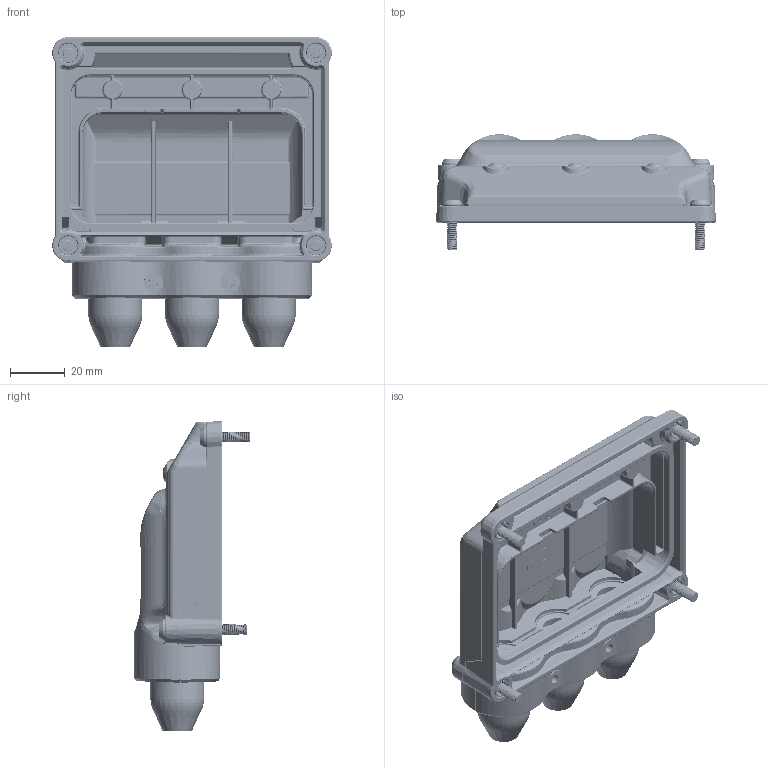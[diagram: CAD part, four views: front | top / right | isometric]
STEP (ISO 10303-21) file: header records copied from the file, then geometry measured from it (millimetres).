
FILE_DESCRIPTION (( 'STEP AP214' ), '1' );
FILE_NAME ('2019-103-001.STEP', '2024-02-15T09:48:59', ( '' ), ( '' ), 'SwSTEP 2.0', 'SolidWorks 2021', '' );
FILE_SCHEMA (( 'AUTOMOTIVE_DESIGN' ));
Length unit declared in the file: millimetre
Products named in the file (12): 2019-103-001; 910M-004-010; 920A-004-015; 910N-004-016; 910N-004-030; 920A-004-006; 2019-103-103; 2019-103-102; 2019-103-100; 2019-103-101; 2019-103-004; 2019-103-005
Assembly tree (21 placements, depth 3):
  2019-103-001
    2019-103-004
      2019-103-100
      920A-004-006  x2
      920A-004-015  x2
    2019-103-005
      2019-103-101
      920A-004-006  x2
    2019-103-102
    2019-103-103
    910N-004-016  x2
    910N-004-030  x2
    910M-004-010  x5
Bounding box: 102.05 x 42.27 x 113.03 mm (x, y, z)
Volume: 93189.7 mm3; surface area: 87906.1 mm2
Topology: 19 solids, 19 shells, 3753 faces, 9469 edges, 5790 vertices
Faces by surface type: plane 1054, bspline 999, cylinder 968, cone 275, torus 231, sphere 226
Full cylindrical faces by diameter (mm): 0.482 x1, 0.832 x2, 3.908 x6, 4 x6, 7 x7, 7.6 x4, 11 x15, 15.8 x6, 16 x9, 17.8 x3, 19.7 x3
Entity records: 158977 total; most frequent: CARTESIAN_POINT 84414, ORIENTED_EDGE 16964, DIRECTION 13306, EDGE_CURVE 8482, VERTEX_POINT 5242, AXIS2_PLACEMENT_3D 4970, EDGE_LOOP 3884, FACE_OUTER_BOUND 3688
